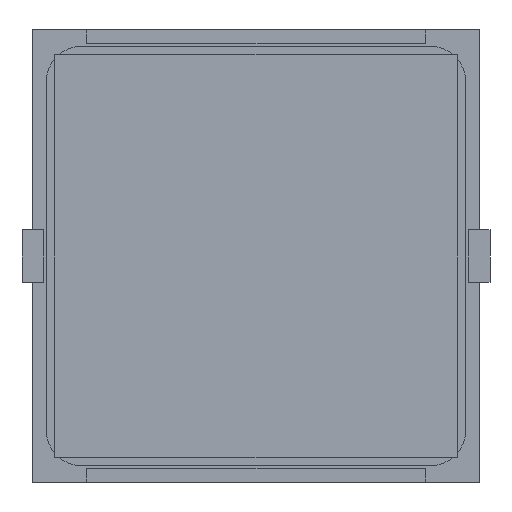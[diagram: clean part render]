
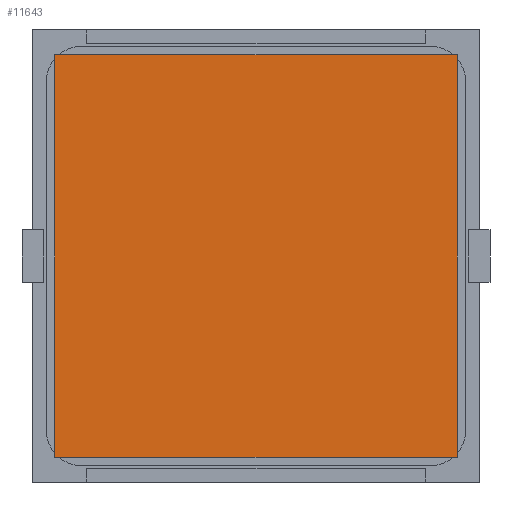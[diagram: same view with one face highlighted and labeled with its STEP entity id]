
A CAD part, front view. The second image highlights one B-rep face of the part: STEP entity #11643.
In plain terms, the highlighted planar face has unit normal (0, -1, 0).
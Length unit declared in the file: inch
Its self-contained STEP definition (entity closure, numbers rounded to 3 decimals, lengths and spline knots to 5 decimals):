
#405 = DIRECTION ( 'NONE',  ( 0., 0., -1. ) ) ;
#1459 = EDGE_CURVE ( 'NONE', #4829, #8859, #4961, .T. ) ;
#1505 = VECTOR ( 'NONE', #4658, 39.37008 ) ;
#1554 = CARTESIAN_POINT ( 'NONE',  ( -0.74803, -0.005, -0.74803 ) ) ;
#1574 = VERTEX_POINT ( 'NONE', #3723 ) ;
#1682 = VECTOR ( 'NONE', #11672, 39.37008 ) ;
#2144 = CARTESIAN_POINT ( 'NONE',  ( 0.74803, -0.005, 0.74803 ) ) ;
#2303 = VECTOR ( 'NONE', #11505, 39.37008 ) ;
#2609 = CARTESIAN_POINT ( 'NONE',  ( -0.74803, -0.005, 0.74803 ) ) ;
#3289 = ORIENTED_EDGE ( 'NONE', *, *, #8644, .F. ) ;
#3519 = FACE_OUTER_BOUND ( 'NONE', #4501, .T. ) ;
#3566 = DIRECTION ( 'NONE',  ( 0., 1., 0. ) ) ;
#3690 = EDGE_CURVE ( 'NONE', #1574, #4829, #4344, .T. ) ;
#3723 = CARTESIAN_POINT ( 'NONE',  ( -0.74803, -0.005, 0.74803 ) ) ;
#4182 = CARTESIAN_POINT ( 'NONE',  ( -0.74803, -0.005, -0.74803 ) ) ;
#4274 = EDGE_CURVE ( 'NONE', #8859, #9967, #6220, .T. ) ;
#4344 = LINE ( 'NONE', #2609, #1682 ) ;
#4476 = CARTESIAN_POINT ( 'NONE',  ( -0.74803, -0.005, -0.74803 ) ) ;
#4501 = EDGE_LOOP ( 'NONE', ( #3289, #8354, #10358, #8745 ) ) ;
#4658 = DIRECTION ( 'NONE',  ( -1., 0., 0. ) ) ;
#4829 = VERTEX_POINT ( 'NONE', #2144 ) ;
#4961 = LINE ( 'NONE', #9438, #10984 ) ;
#6220 = LINE ( 'NONE', #4476, #1505 ) ;
#6703 = AXIS2_PLACEMENT_3D ( 'NONE', #11593, #3566, #11772 ) ;
#8075 = PLANE ( 'NONE',  #6703 ) ;
#8293 = CARTESIAN_POINT ( 'NONE',  ( 0.74803, -0.005, -0.74803 ) ) ;
#8354 = ORIENTED_EDGE ( 'NONE', *, *, #4274, .F. ) ;
#8644 = EDGE_CURVE ( 'NONE', #9967, #1574, #10549, .T. ) ;
#8745 = ORIENTED_EDGE ( 'NONE', *, *, #3690, .F. ) ;
#8859 = VERTEX_POINT ( 'NONE', #8293 ) ;
#9438 = CARTESIAN_POINT ( 'NONE',  ( 0.74803, -0.005, -0.74803 ) ) ;
#9967 = VERTEX_POINT ( 'NONE', #1554 ) ;
#10358 = ORIENTED_EDGE ( 'NONE', *, *, #1459, .F. ) ;
#10549 = LINE ( 'NONE', #4182, #2303 ) ;
#10984 = VECTOR ( 'NONE', #405, 39.37008 ) ;
#11505 = DIRECTION ( 'NONE',  ( 0., 0., 1. ) ) ;
#11593 = CARTESIAN_POINT ( 'NONE',  ( -0.74803, -0.005, 0.74803 ) ) ;
#11643 = ADVANCED_FACE ( 'NONE', ( #3519 ), #8075, .F. ) ;
#11672 = DIRECTION ( 'NONE',  ( 1., 0., 0. ) ) ;
#11772 = DIRECTION ( 'NONE',  ( 0., 0., 1. ) ) ;
